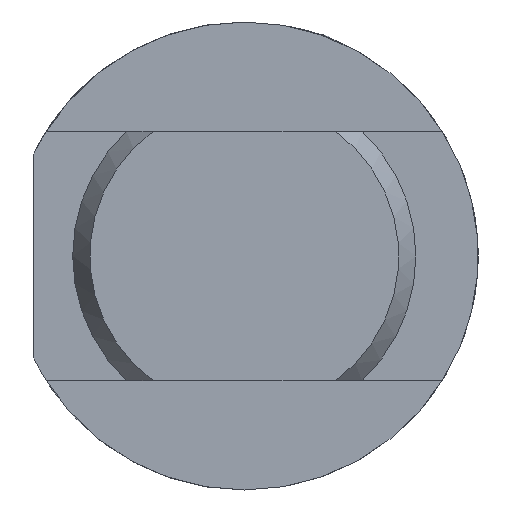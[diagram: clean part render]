
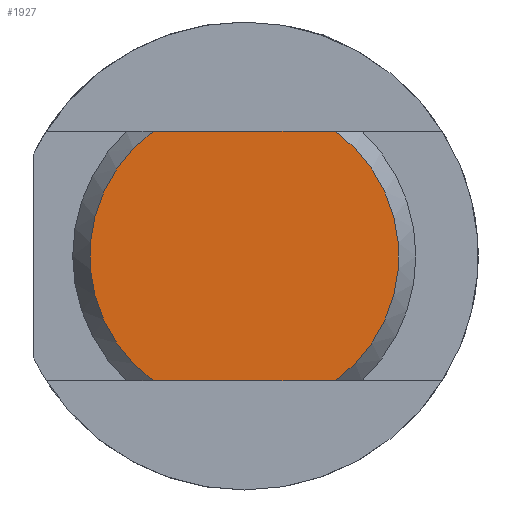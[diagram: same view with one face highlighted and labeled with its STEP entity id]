
A CAD part, left-side view. The second image highlights one B-rep face of the part: STEP entity #1927.
In plain terms, the highlighted planar face has unit normal (-1, 0, 0).
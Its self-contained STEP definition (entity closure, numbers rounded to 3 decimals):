
#5 = CARTESIAN_POINT ( 'NONE',  ( -495.364, 13.5, -8. ) ) ;
#6 = DIRECTION ( 'NONE',  ( 0., 1., 0. ) ) ;
#60 = CARTESIAN_POINT ( 'NONE',  ( -495.364, 0., 0. ) ) ;
#61 = DIRECTION ( 'NONE',  ( 1., 0., 0. ) ) ;
#62 = DIRECTION ( 'NONE',  ( 0., 0., -1. ) ) ;
#63 = CARTESIAN_POINT ( 'NONE',  ( -495.364, 0., 0. ) ) ;
#64 = DIRECTION ( 'NONE',  ( 1., 0., 0. ) ) ;
#65 = DIRECTION ( 'NONE',  ( 0., 0., -1. ) ) ;
#1927 = ADVANCED_FACE ( 'NONE', ( #5774 ), #2591, .T. ) ;
#2056 = ORIENTED_EDGE ( 'NONE', *, *, #6743, .F. ) ;
#2057 = ORIENTED_EDGE ( 'NONE', *, *, #6776, .F. ) ;
#2058 = ORIENTED_EDGE ( 'NONE', *, *, #6761, .F. ) ;
#2059 = ORIENTED_EDGE ( 'NONE', *, *, #6777, .F. ) ;
#2547 = AXIS2_PLACEMENT_3D ( 'NONE', #2589, #2594, #2595 ) ;
#2589 = CARTESIAN_POINT ( 'NONE',  ( -495.364, 0., 0. ) ) ;
#2591 = PLANE ( 'NONE',  #2547 ) ;
#2594 = DIRECTION ( 'NONE',  ( -1., 0., 0. ) ) ;
#2595 = DIRECTION ( 'NONE',  ( 0., 0., 1. ) ) ;
#3405 = VERTEX_POINT ( 'NONE', #7031 ) ;
#3444 = VERTEX_POINT ( 'NONE', #7068 ) ;
#3445 = VERTEX_POINT ( 'NONE', #7069 ) ;
#3892 = EDGE_LOOP ( 'NONE', ( #2056, #2057, #2058, #2059 ) ) ;
#4786 = CARTESIAN_POINT ( 'NONE',  ( -495.364, 5.832, 8. ) ) ;
#4892 = CARTESIAN_POINT ( 'NONE',  ( -495.364, 13.5, 8. ) ) ;
#4895 = DIRECTION ( 'NONE',  ( 0., -1., 0. ) ) ;
#4945 = LINE ( 'NONE', #5, #4946 ) ;
#4946 = VECTOR ( 'NONE', #6, 1000. ) ;
#4962 = CIRCLE ( 'NONE', #6387, 9.9 ) ;
#4963 = CIRCLE ( 'NONE', #6388, 9.9 ) ;
#5774 = FACE_OUTER_BOUND ( 'NONE', #3892, .T. ) ;
#6321 = LINE ( 'NONE', #4892, #6326 ) ;
#6326 = VECTOR ( 'NONE', #4895, 1000. ) ;
#6387 = AXIS2_PLACEMENT_3D ( 'NONE', #60, #61, #62 ) ;
#6388 = AXIS2_PLACEMENT_3D ( 'NONE', #63, #64, #65 ) ;
#6577 = VERTEX_POINT ( 'NONE', #4786 ) ;
#6743 = EDGE_CURVE ( 'NONE', #6577, #3444, #6321, .T. ) ;
#6761 = EDGE_CURVE ( 'NONE', #3445, #3405, #4945, .T. ) ;
#6776 = EDGE_CURVE ( 'NONE', #3405, #6577, #4962, .T. ) ;
#6777 = EDGE_CURVE ( 'NONE', #3444, #3445, #4963, .T. ) ;
#7031 = CARTESIAN_POINT ( 'NONE',  ( -495.364, 5.832, -8. ) ) ;
#7068 = CARTESIAN_POINT ( 'NONE',  ( -495.364, -5.832, 8. ) ) ;
#7069 = CARTESIAN_POINT ( 'NONE',  ( -495.364, -5.832, -8. ) ) ;
